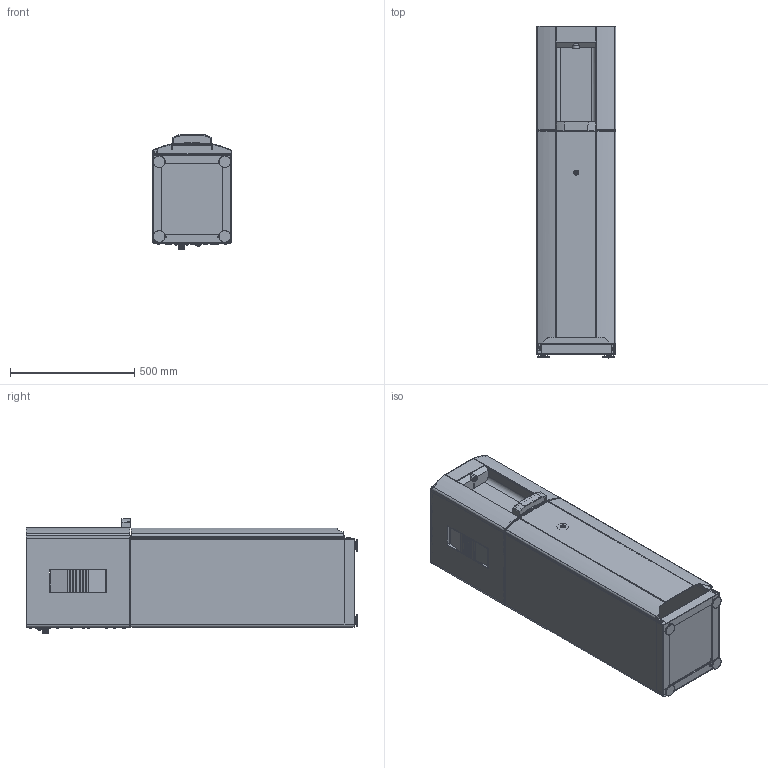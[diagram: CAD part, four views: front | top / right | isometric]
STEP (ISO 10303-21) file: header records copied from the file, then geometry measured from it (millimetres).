
FILE_DESCRIPTION (( 'STEP AP203' ), '1' );
FILE_NAME ('B6 with Cabinet.STEP', '2022-12-08T12:41:17', ( '' ), ( '' ), 'SwSTEP 2.0', 'SolidWorks 2021', '' );
FILE_SCHEMA (( 'CONFIG_CONTROL_DESIGN' ));
Products named in the file (1): B6 with Cabinet
Bounding box: 320.22 x 1332.85 x 461.87 mm (x, y, z)
Surface area: 4780152.2 mm2 (no closed solid volume)
Topology: 0 solids, 186 shells, 1111 faces, 7953 edges, 6778 vertices
Faces by surface type: plane 400, cylinder 388, bspline 187, cone 82, torus 40, sphere 14
Entity records: 120336 total; most frequent: CARTESIAN_POINT 65884, DIRECTION 9799, ORIENTED_EDGE 9740, EDGE_CURVE 7933, VERTEX_POINT 6778, VECTOR 3581, LINE 3581, AXIS2_PLACEMENT_3D 3109
